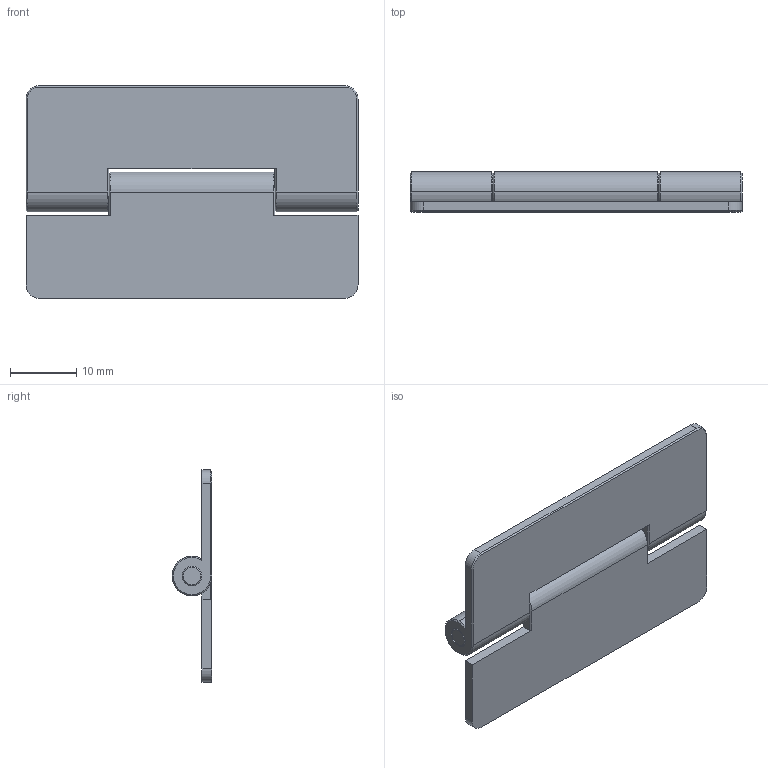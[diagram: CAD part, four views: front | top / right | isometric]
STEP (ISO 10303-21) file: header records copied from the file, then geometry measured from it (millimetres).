
FILE_DESCRIPTION (( 'STEP AP203' ), '1' );
FILE_NAME ('Default.step', '2019-03-29T21:11:32', ( '' ), ( '' ), 'SwSTEP 2.0', 'SolidWorks 2017', '' );
FILE_SCHEMA (( 'CONFIG_CONTROL_DESIGN' ));
Length unit declared in the file: millimetre
Products named in the file (4): Part1; Part3; Default; Part2
Assembly tree (3 placements, depth 2):
  Default
    Part1
    Part2
    Part3
Bounding box: 50 x 6 x 32 mm (x, y, z)
Volume: 3403.8 mm3; surface area: 4867.8 mm2
Topology: 3 solids, 3 shells, 71 faces, 169 edges, 104 vertices
Faces by surface type: plane 26, cone 24, cylinder 21
Entity records: 2473 total; most frequent: DIRECTION 383, CARTESIAN_POINT 368, ORIENTED_EDGE 338, EDGE_CURVE 169, AXIS2_PLACEMENT_3D 143, VERTEX_POINT 104, VECTOR 97, LINE 97
